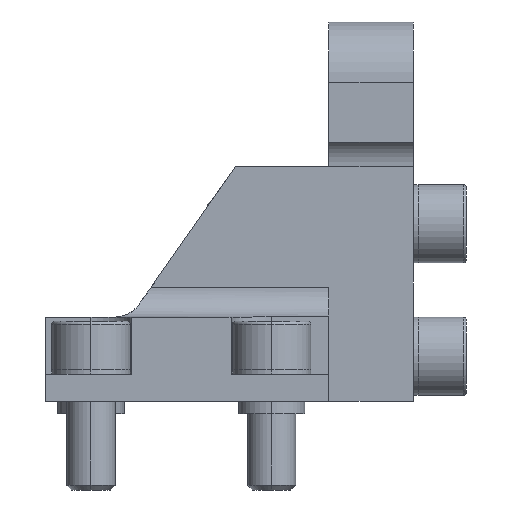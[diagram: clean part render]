
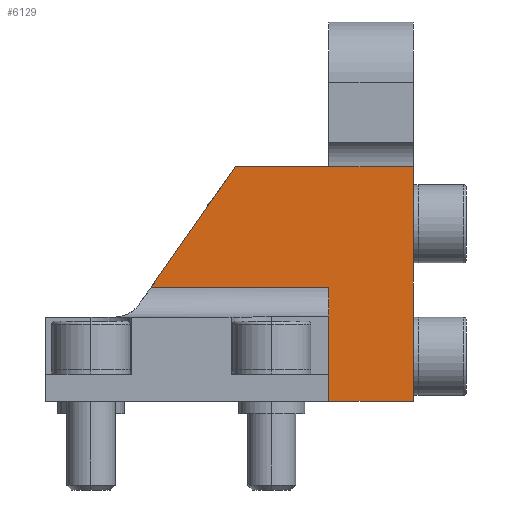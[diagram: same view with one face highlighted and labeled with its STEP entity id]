
A CAD part, left-side view. The second image highlights one B-rep face of the part: STEP entity #6129.
In plain terms, the highlighted planar face has unit normal (-1, 0, 0).
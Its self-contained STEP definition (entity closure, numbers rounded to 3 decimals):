
#11 = EDGE_CURVE ( 'NONE', #1525, #3752, #1066, .T. ) ;
#54 = CARTESIAN_POINT ( 'NONE',  ( -8., 14., 39. ) ) ;
#251 = ORIENTED_EDGE ( 'NONE', *, *, #2930, .T. ) ;
#401 = ORIENTED_EDGE ( 'NONE', *, *, #1317, .F. ) ;
#457 = CARTESIAN_POINT ( 'NONE',  ( -8., 14., 19. ) ) ;
#944 = EDGE_CURVE ( 'NONE', #3259, #1525, #6509, .T. ) ;
#993 = CARTESIAN_POINT ( 'NONE',  ( -8., 19., 39. ) ) ;
#1066 = LINE ( 'NONE', #4784, #1368 ) ;
#1089 = CARTESIAN_POINT ( 'NONE',  ( -8., 29.488, 39. ) ) ;
#1131 = AXIS2_PLACEMENT_3D ( 'NONE', #5229, #6882, #2494 ) ;
#1214 = CARTESIAN_POINT ( 'NONE',  ( -8., 0., 39. ) ) ;
#1285 = DIRECTION ( 'NONE',  ( 0., -0.574, 0.819 ) ) ;
#1317 = EDGE_CURVE ( 'NONE', #4705, #1947, #1499, .T. ) ;
#1368 = VECTOR ( 'NONE', #4316, 1000. ) ;
#1390 = DIRECTION ( 'NONE',  ( 0., -1., 0. ) ) ;
#1499 = LINE ( 'NONE', #1999, #4753 ) ;
#1525 = VERTEX_POINT ( 'NONE', #6080 ) ;
#1759 = EDGE_CURVE ( 'NONE', #5176, #3259, #4947, .T. ) ;
#1766 = CARTESIAN_POINT ( 'NONE',  ( -8., 43.492, 19. ) ) ;
#1854 = ORIENTED_EDGE ( 'NONE', *, *, #1759, .T. ) ;
#1947 = VERTEX_POINT ( 'NONE', #3019 ) ;
#1954 = CARTESIAN_POINT ( 'NONE',  ( -8., 14., 39. ) ) ;
#1999 = CARTESIAN_POINT ( 'NONE',  ( -8., 81.476, 39. ) ) ;
#2244 = DIRECTION ( 'NONE',  ( 0., -1., 0. ) ) ;
#2259 = EDGE_CURVE ( 'NONE', #5176, #4147, #5086, .T. ) ;
#2448 = DIRECTION ( 'NONE',  ( 0., 1., 0. ) ) ;
#2494 = DIRECTION ( 'NONE',  ( 0., 0., -1. ) ) ;
#2930 = EDGE_CURVE ( 'NONE', #4705, #4147, #6397, .T. ) ;
#2958 = ORIENTED_EDGE ( 'NONE', *, *, #944, .T. ) ;
#3004 = VECTOR ( 'NONE', #1285, 1000. ) ;
#3019 = CARTESIAN_POINT ( 'NONE',  ( -8., 0., 39. ) ) ;
#3079 = PLANE ( 'NONE',  #1131 ) ;
#3126 = VECTOR ( 'NONE', #5495, 1000. ) ;
#3259 = VERTEX_POINT ( 'NONE', #457 ) ;
#3707 = VECTOR ( 'NONE', #2244, 1000. ) ;
#3752 = VERTEX_POINT ( 'NONE', #3826 ) ;
#3826 = CARTESIAN_POINT ( 'NONE',  ( -8., 0., 0.001 ) ) ;
#3984 = VECTOR ( 'NONE', #6750, 1000. ) ;
#4147 = VERTEX_POINT ( 'NONE', #1089 ) ;
#4316 = DIRECTION ( 'NONE',  ( 0., -1., 0. ) ) ;
#4649 = VECTOR ( 'NONE', #2448, 1000. ) ;
#4705 = VERTEX_POINT ( 'NONE', #1954 ) ;
#4753 = VECTOR ( 'NONE', #1390, 1000. ) ;
#4784 = CARTESIAN_POINT ( 'NONE',  ( -8., 81.476, 0.001 ) ) ;
#4947 = LINE ( 'NONE', #6141, #3707 ) ;
#5086 = LINE ( 'NONE', #6817, #3004 ) ;
#5176 = VERTEX_POINT ( 'NONE', #1766 ) ;
#5185 = ORIENTED_EDGE ( 'NONE', *, *, #2259, .F. ) ;
#5229 = CARTESIAN_POINT ( 'NONE',  ( -8., 19., 62.695 ) ) ;
#5495 = DIRECTION ( 'NONE',  ( 0., 0., -1. ) ) ;
#5697 = LINE ( 'NONE', #1214, #3984 ) ;
#5706 = ORIENTED_EDGE ( 'NONE', *, *, #11, .T. ) ;
#5861 = ORIENTED_EDGE ( 'NONE', *, *, #6558, .T. ) ;
#5940 = EDGE_LOOP ( 'NONE', ( #5185, #1854, #2958, #5706, #5861, #401, #251 ) ) ;
#5974 = FACE_OUTER_BOUND ( 'NONE', #5940, .T. ) ;
#6080 = CARTESIAN_POINT ( 'NONE',  ( -8., 14., 0.001 ) ) ;
#6129 = ADVANCED_FACE ( 'NONE', ( #5974 ), #3079, .F. ) ;
#6141 = CARTESIAN_POINT ( 'NONE',  ( -8., 19., 19. ) ) ;
#6397 = LINE ( 'NONE', #993, #4649 ) ;
#6509 = LINE ( 'NONE', #54, #3126 ) ;
#6558 = EDGE_CURVE ( 'NONE', #3752, #1947, #5697, .T. ) ;
#6750 = DIRECTION ( 'NONE',  ( 0., 0., 1. ) ) ;
#6817 = CARTESIAN_POINT ( 'NONE',  ( -8., 45.5, 16.132 ) ) ;
#6882 = DIRECTION ( 'NONE',  ( 1., 0., 0. ) ) ;
